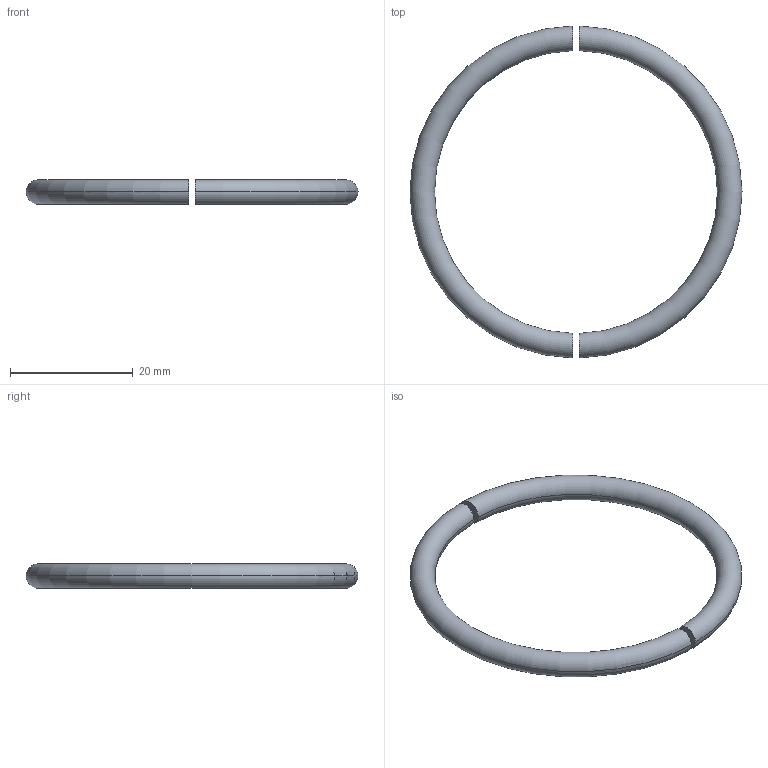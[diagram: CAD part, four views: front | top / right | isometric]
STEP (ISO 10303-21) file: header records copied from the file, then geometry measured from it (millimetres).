
FILE_DESCRIPTION(('CATIA V5 STEP','CAx-IF Rec.Pracs.--- Model Styling and Organization---1.4--- 2014-01-23'),'2;1');
FILE_NAME('\\GSBFILE\data\URETIM\3D DATALAR\Step Dosyaları\Kılavuz Elemanları\A102-01-050.stp','2020-09-15T16:48:05+00:00',('none'),('none'),'CATIA Version 5-6 Release 2019 SP3','CATIA V5 STEP AP214 v1','none');
FILE_SCHEMA(('AUTOMOTIVE_DESIGN { 1 0 10303 214 1 1 1 1 }'));
Length unit declared in the file: millimetre
Products named in the file (1): A102-01-050
Bounding box: 54 x 53.99 x 3.99 mm (x, y, z)
Volume: 1948.8 mm3; surface area: 1999.1 mm2
Topology: 2 solids, 2 shells, 8 faces, 12 edges, 8 vertices
Faces by surface type: torus 4, plane 4
Entity records: 270 total; most frequent: CARTESIAN_POINT 127, ORIENTED_EDGE 24, DIRECTION 16, EDGE_CURVE 12, AXIS2_PLACEMENT_3D 11, ADVANCED_FACE 8, B_SPLINE_CURVE_WITH_KNOTS 8, EDGE_LOOP 8
